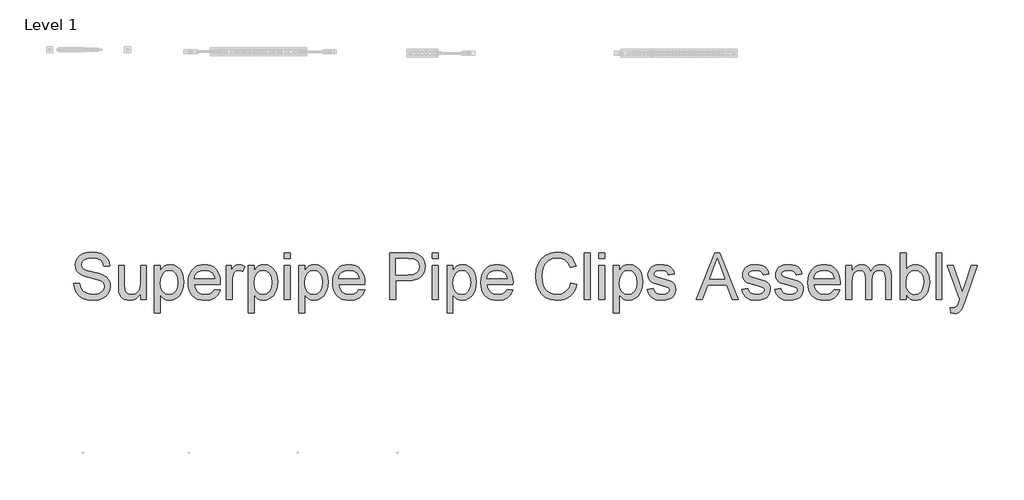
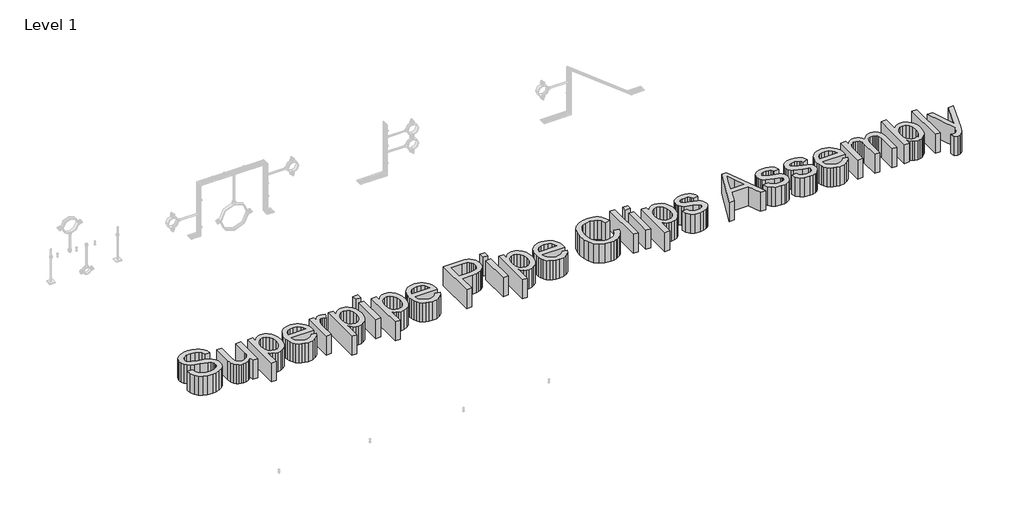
# One storey, part 27 of 32: 1 proxy.
"""IFC4 building model written with IfcOpenShell, lengths in millimetres."""

import ifcopenshell
import ifcopenshell.guid

model = None  # the IFC model being written
_history = None  # IfcOwnerHistory: only IFC2X3 demands one
_inside = {}  # id of a spatial element -> (the spatial element, [elements in it])
_under = {}  # id of a project, library or spatial element -> (it, [spatial elements below it])
_declared = {}  # id of a project -> (the project, [libraries it declares])
_typed = {}  # id of a type object -> (the type object, [elements of that type])
_made_of = {}  # id of a material, layer set ... -> (it, [elements and type objects made of it])


def new_model(schema):
    """Start an empty IFC model of exactly this schema.

    Asked for "IFC4X3", IfcOpenShell would pick the latest addendum, in which some entities
    have other attributes; the version numbers below select the first issue.
    IFC2X3 requires an IfcOwnerHistory on every rooted entity: one is made here for all.
    """
    global model, _history
    if schema == "IFC4X3":
        model = ifcopenshell.file(schema_version=(4, 3, 0, 0))
    else:
        model = ifcopenshell.file(schema=schema)
    _inside.clear()
    _under.clear()
    _declared.clear()
    _typed.clear()
    _made_of.clear()
    _history = None
    if model.schema == "IFC2X3":
        org = make("IfcOrganization", Name="unknown")
        user = make(
            "IfcPersonAndOrganization",
            ThePerson=make("IfcPerson", FamilyName="unknown"),
            TheOrganization=org,
        )
        app = make(
            "IfcApplication",
            ApplicationDeveloper=org,
            Version="unknown",
            ApplicationFullName="unknown",
            ApplicationIdentifier="unknown",
        )
        _history = make(
            "IfcOwnerHistory",
            OwningUser=user,
            OwningApplication=app,
            ChangeAction="ADDED",
            CreationDate=0,
        )
    return model


def make(cls, **values):
    """One entity of the class cls with the attributes given. An attribute that is None is left unset."""
    return model.create_entity(
        cls, **{name: value for name, value in values.items() if value is not None}
    )


def rooted(cls, **values):
    """An entity with a GlobalId (a new one), such as an element, a storey or a relation."""
    return make(cls, GlobalId=ifcopenshell.guid.new(), OwnerHistory=_history, **values)


def si_unit(unit_type, name, prefix=None):
    """IfcSIUnit, for example si_unit("LENGTHUNIT", "METRE", prefix="MILLI")."""
    return make("IfcSIUnit", UnitType=unit_type, Prefix=prefix, Name=name)


def assignment(units):
    """IfcUnitAssignment: the units of a project."""
    return None if units is None else make("IfcUnitAssignment", Units=units)


def point(xyz):
    """IfcCartesianPoint."""
    return None if xyz is None else make("IfcCartesianPoint", Coordinates=xyz)


def direction(xyz):
    """IfcDirection."""
    return None if xyz is None else make("IfcDirection", DirectionRatios=xyz)


def frame(location, z_axis=None, x_axis=None):
    """IfcAxis2Placement3D, a coordinate frame: its origin and axes. An axis left out is left unset."""
    return make(
        "IfcAxis2Placement3D",
        Location=point(location),
        Axis=direction(z_axis),
        RefDirection=direction(x_axis),
    )


def origin():
    """The frame at (0, 0, 0) with its axes left unset."""
    return frame((0.0, 0.0, 0.0))


def origin_with_axes():
    """The frame at (0, 0, 0) with the z axis (0, 0, 1) and the x axis (1, 0, 0) written out."""
    return frame((0.0, 0.0, 0.0), z_axis=(0.0, 0.0, 1.0), x_axis=(1.0, 0.0, 0.0))


def place(relative_to, where):
    """IfcLocalPlacement: puts the frame where relative to a parent placement (None: the world)."""
    return make(
        "IfcLocalPlacement", PlacementRelTo=relative_to, RelativePlacement=where
    )


def context(
    kind, dimensions, precision=None, world=None, true_north=None, identifier=None
):
    """IfcGeometricRepresentationContext, for example the 3D "Model" context."""
    return make(
        "IfcGeometricRepresentationContext",
        ContextIdentifier=identifier,
        ContextType=kind,
        CoordinateSpaceDimension=dimensions,
        Precision=precision,
        WorldCoordinateSystem=world,
        TrueNorth=true_north,
    )


def project(units=None, contexts=None):
    """IfcProject with its units and contexts."""
    return rooted(
        "IfcProject",
        Name="project",
        RepresentationContexts=contexts,
        UnitsInContext=assignment(units),
    )


def spatial(cls, under=None, at=None, **own):
    """A site, building, storey or space (cls), placed at a placement, below another one or the project."""
    s = rooted(cls, ObjectPlacement=at, **own)
    if under is not None:
        _under.setdefault(under.id(), (under, []))[1].append(s)
    return s


def polyline(points):
    """IfcPolyline through the points."""
    return make("IfcPolyline", Points=[point(p) for p in points])


def outline(outer, holes=None, kind="AREA"):
    """IfcArbitraryClosedProfileDef: a profile drawn as a closed curve; with holes, ...WithVoids."""
    if holes is None:
        return make("IfcArbitraryClosedProfileDef", ProfileType=kind, OuterCurve=outer)
    return make(
        "IfcArbitraryProfileDefWithVoids",
        ProfileType=kind,
        OuterCurve=outer,
        InnerCurves=holes,
    )


def extrude(swept, where, along, depth):
    """IfcExtrudedAreaSolid: the profile swept, set in the frame where, extruded along a direction by depth."""
    return make(
        "IfcExtrudedAreaSolid",
        SweptArea=swept,
        Position=where,
        ExtrudedDirection=direction(along),
        Depth=depth,
    )


def shape(context_of_items, identifier, shape_type, items):
    """IfcShapeRepresentation: the items that make up one representation, for example the "Body"."""
    return make(
        "IfcShapeRepresentation",
        ContextOfItems=context_of_items,
        RepresentationIdentifier=identifier,
        RepresentationType=shape_type,
        Items=items,
    )


def made_of(thing, what):
    """Note that an element or type object is made of a material, layer set ...; save() writes the relation."""
    if what is not None:
        _made_of.setdefault(what.id(), (what, []))[1].append(thing)
    return thing


def element(
    cls,
    number,
    at=None,
    inside=None,
    cuts=None,
    type_object=None,
    material=None,
    context=None,
    identifier="Body",
    shape_type=None,
    held_by="IfcProductDefinitionShape",
    body=None,
    shapes=None,
    **own,
):
    """One element of the class cls, such as IfcWall. Its Tag is "e" and its number.

    at: its placement. inside: the storey or other place that contains it. cuts: it is an
    opening in that element (IfcRelVoidsElement). A single representation is given by context,
    identifier, shape_type and body (its items); several are given by shapes. held_by: the class
    of the entity that holds the representations. save() writes the other relations.
    """
    e = rooted(cls, Tag="e%d" % number, ObjectPlacement=at, **own)
    if body is not None:
        shapes = [shape(context, identifier, shape_type, body)]
    if shapes is not None:
        e.Representation = make(held_by, Representations=shapes)
    if inside is not None:
        _inside.setdefault(inside.id(), (inside, []))[1].append(e)
    if cuts is not None:
        rooted(
            "IfcRelVoidsElement", RelatingBuildingElement=cuts, RelatedOpeningElement=e
        )
    if type_object is not None:
        _typed.setdefault(type_object.id(), (type_object, []))[1].append(e)
    return made_of(e, material)


def aggregate(whole, parts):
    """IfcRelAggregates: a whole, such as a stair, and the parts it consists of."""
    return rooted("IfcRelAggregates", RelatingObject=whole, RelatedObjects=parts)


def save(model, path):
    """Write the relations noted so far, then the file.

    IfcRelAggregates (storeys below a building ...), IfcRelContainedInSpatialStructure (elements
    in a storey), IfcRelDefinesByType, IfcRelAssociatesMaterial and IfcRelDeclares: one each for
    every whole, place, type object, material and project.
    """
    for whole, parts in _under.values():
        aggregate(whole, parts)
    for where, things in _inside.values():
        rooted(
            "IfcRelContainedInSpatialStructure",
            RelatedElements=things,
            RelatingStructure=where,
        )
    for kind, things in _typed.values():
        rooted("IfcRelDefinesByType", RelatedObjects=things, RelatingType=kind)
    for what, things in _made_of.values():
        rooted("IfcRelAssociatesMaterial", RelatedObjects=things, RelatingMaterial=what)
    for by, libraries in _declared.values():
        rooted("IfcRelDeclares", RelatingContext=by, RelatedDefinitions=libraries)
    model.write(path)


model = new_model("IFC4")

# Units and contexts
model_context = context("Model", 3, world=origin())
ifc_project = project(units=[si_unit("LENGTHUNIT", "METRE", prefix="MILLI")], contexts=[model_context])

# Site, building, storey
site = spatial("IfcSite", under=ifc_project)
building = spatial("IfcBuilding", under=site)
storey = spatial("IfcBuildingStorey", under=building, Name="Level 1", Elevation=0.0)

# Proxy
placement = place(None, origin())
element("IfcBuildingElementProxy", 1, Name="300mm Arial 2", ObjectType="300mm Arial 2", at=placement, inside=storey, context=model_context, shape_type="SweptSolid", body=[
    extrude(outline(polyline([(-22411.9190005, 19309.0330289), (-22374.2478842, 19309.0330289), (-22369.9252708, 19288.1281345), (-22362.1077784, 19271.3251244), (-22349.9124903, 19257.989402), (-22332.4564896, 19247.4863711), (-22311.1193339, 19240.6713571), (-22287.2805806, 19238.3996858), (-22266.2929128, 19240.1195341), (-22247.9172071, 19245.2790791), (-22233.0271833, 19253.4460594), (-22222.4965612, 19264.1882137), (-22216.2333703, 19276.5214575), (-22214.1456399, 19289.4617067), (-22215.7091384, 19302.0708621), (-22220.3996339, 19312.9693662), (-22229.9277775, 19322.2675836), (-22246.0042207, 19330.075879), (-22300.8554262, 19344.460065), (-22336.8618765, 19353.9790116), (-22359.9004864, 19363.0381058), (-22378.6532711, 19375.7116405), (-22391.9430082, 19391.0707138), (-22399.8616682, 19408.7842319), (-22402.5012215, 19428.5211009), (-22399.2362688, 19450.5848236), (-22389.4414106, 19471.1586241), (-22373.3741645, 19488.5962307), (-22351.2920477, 19501.2513714), (-22324.78615, 19508.9493021), (-22295.4475609, 19511.515279), (-22263.6625565, 19508.8297405), (-22235.8506777, 19500.7731248), (-22213.0052058, 19487.5109788), (-22196.1194222, 19469.2088496), (-22185.4324502, 19447.0071712), (-22181.1834132, 19422.0463778), (-22218.8545295, 19422.0463778), (-22225.770711, 19444.5239677), (-22240.1916852, 19460.7475637), (-22262.7244574, 19470.570013), (-22293.9760329, 19473.8441627), (-22325.9633724, 19470.6068012), (-22347.9075334, 19460.8947165), (-22360.5994622, 19446.602501), (-22364.8301052, 19429.6247469), (-22361.8318669, 19415.1485904), (-22352.8371521, 19403.5051252), (-22331.5735728, 19393.0940648), (-22291.3272825, 19382.4622751), (-22249.7934053, 19372.3639143), (-22224.667065, 19363.5531406), (-22203.1919535, 19349.8863244), (-22188.2099593, 19333.018935), (-22179.4083825, 19313.1349131), (-22176.4745236, 19290.4181999), (-22179.8498409, 19267.195649), (-22189.9757929, 19245.3526555), (-22206.4385121, 19226.5538856), (-22228.8241315, 19212.4640051), (-22255.7438965, 19203.6624284), (-22285.8090526, 19200.7285695), (-22322.7168138, 19203.8923547), (-22353.0946695, 19213.3837101), (-22377.2921077, 19229.2394241), (-22395.6586164, 19251.4962848), (-22407.4492343, 19278.6091879), (-22411.9190005, 19309.0330289)])), origin_with_axes(), (0.0, 0.0, 1.0), 150.0),
    extrude(outline(polyline([(-21983.4100526, 19205.437459), (-21983.4100526, 19243.4764573), (-21997.0400805, 19224.7742564), (-22012.9141886, 19211.4155415), (-22031.0323768, 19203.4003125), (-22051.3946453, 19200.7285695), (-22069.7427598, 19202.6047677), (-22086.8216814, 19208.2333622), (-22101.1506851, 19216.6946481), (-22111.2490459, 19227.0689203), (-22122.4694467, 19254.8072228), (-22124.6767387, 19289.8295887), (-22124.6767387, 19426.7552673), (-22087.0056224, 19426.7552673), (-22087.0056224, 19307.5615009), (-22084.724754, 19269.1546206), (-22079.2341153, 19256.3431301), (-22069.8255332, 19246.6034543), (-22057.1244073, 19240.4506279), (-22041.756137, 19238.3996858), (-22025.5049499, 19240.4966132), (-22010.3022264, 19246.7873953), (-21997.7666474, 19256.692618), (-21989.5168937, 19269.6328672), (-21984.9367628, 19287.3555823), (-21983.4100526, 19311.6082028), (-21983.4100526, 19426.7552673), (-21945.7389363, 19426.7552673), (-21945.7389363, 19205.437459), (-21983.4100526, 19205.437459)])), origin_with_axes(), (0.0, 0.0, 1.0), 150.0),
    extrude(outline(polyline([(-21893.9411513, 19120.6774473), (-21893.9411513, 19426.7552673), (-21856.270035, 19426.7552673), (-21856.270035, 19389.819915), (-21843.9827764, 19408.0392708), (-21830.2239898, 19421.0530964), (-21814.1843348, 19428.8613918), (-21795.054471, 19431.4641569), (-21769.5786429, 19427.8221251), (-21747.3033881, 19416.8960299), (-21729.1668057, 19399.3480587), (-21716.1069949, 19375.8403992), (-21708.2159261, 19348.0837027), (-21705.5855698, 19317.7886204), (-21708.5562169, 19285.5713546), (-21717.4681582, 19256.7569974), (-21732.0362853, 19232.8078795), (-21751.9754894, 19215.1863319), (-21775.1980403, 19204.3430101), (-21799.6162078, 19200.7285695), (-21816.9342527, 19203.1473936), (-21832.3944935, 19210.403866), (-21845.6290483, 19221.3575524), (-21856.270035, 19234.8680186), (-21856.270035, 19120.6774473), (-21893.9411513, 19120.6774473)]), holes=[polyline([(-21856.270035, 19314.3305296), (-21852.1957419, 19280.5589624), (-21839.9728626, 19256.9409384), (-21821.9374478, 19243.0349989), (-21800.4255482, 19238.3996858), (-21778.5641606, 19243.2005458), (-21760.0688933, 19257.6031259), (-21747.4597379, 19282.0856727), (-21743.2566861, 19317.1264328), (-21747.3585704, 19350.7140589), (-21759.6642231, 19374.6631768), (-21777.6720468, 19389.0105746), (-21798.8804438, 19393.7930406), (-21820.1716143, 19388.707072), (-21838.8692167, 19373.4491662), (-21851.9198304, 19348.4975699), (-21856.270035, 19314.3305296)])]), origin_with_axes(), (0.0, 0.0, 1.0), 150.0),
    extrude(outline(polyline([(-21508.2536676, 19271.3619126), (-21471.3183153, 19266.653023), (-21484.6264465, 19238.8227501), (-21505.8624346, 19218.0190233), (-21534.5480332, 19205.0511829), (-21570.2049956, 19200.7285695), (-21593.5792978, 19202.5932714), (-21614.4060173, 19208.1873769), (-21632.6851539, 19217.5108863), (-21648.4167078, 19230.5637993), (-21661.0672499, 19246.9828326), (-21670.1033514, 19266.4047027), (-21675.5250123, 19288.8294095), (-21677.3322326, 19314.2569532), (-21675.5066182, 19340.5467203), (-21670.029775, 19363.7186875), (-21660.901703, 19383.7728547), (-21648.1224022, 19400.7092221), (-21632.4322351, 19414.164506), (-21614.5715642, 19423.7754232), (-21594.5403896, 19429.5419734), (-21572.3387112, 19431.4641569), (-21550.8521034, 19429.546572), (-21531.4210362, 19423.7938173), (-21514.0455098, 19414.2058928), (-21498.7255239, 19400.7827985), (-21486.2198353, 19383.8832193), (-21477.2872006, 19363.8658403), (-21471.9276198, 19340.7306613), (-21470.1410929, 19314.4776824), (-21470.3618221, 19304.3241393), (-21639.6611163, 19304.3241393), (-21633.1404079, 19276.1259844), (-21617.9928668, 19255.395834), (-21596.1314792, 19242.6487228), (-21569.4692316, 19238.3996858), (-21549.4196629, 19240.3678545), (-21532.5338793, 19246.2723605), (-21518.8118809, 19256.4810859), (-21508.2536676, 19271.3619126)]), holes=[polyline([(-21639.6611163, 19341.9952556), (-21507.8122092, 19341.9952556), (-21512.9073748, 19361.8976716), (-21522.895371, 19376.1347048), (-21544.8579261, 19389.3784566), (-21572.4858639, 19393.7930406), (-21597.8789187, 19390.2705705), (-21618.8757835, 19379.7031601), (-21633.4715017, 19363.2312438), (-21639.6611163, 19341.9952556)])]), origin_with_axes(), (0.0, 0.0, 1.0), 150.0),
    extrude(outline(polyline([(-21432.4699766, 19205.437459), (-21432.4699766, 19426.7552673), (-21399.5077498, 19426.7552673), (-21399.5077498, 19394.0137698), (-21387.3308558, 19412.9964807), (-21376.1104549, 19424.1800934), (-21364.8532659, 19429.643141), (-21352.5660072, 19431.4641569), (-21333.8040255, 19428.5578891), (-21314.7477381, 19419.8390858), (-21327.3293024, 19386.0675187), (-21340.5730542, 19391.8616601), (-21353.816806, 19393.7930406), (-21365.064798, 19391.9352365), (-21375.1171735, 19386.3618243), (-21383.2381686, 19377.4958682), (-21388.6920192, 19365.7604325), (-21393.27215, 19344.7175824), (-21394.7988603, 19321.7617459), (-21394.7988603, 19205.437459), (-21432.4699766, 19205.437459)])), origin_with_axes(), (0.0, 0.0, 1.0), 150.0),
    extrude(outline(polyline([(-21291.2032904, 19120.6774473), (-21291.2032904, 19426.7552673), (-21253.5321741, 19426.7552673), (-21253.5321741, 19389.819915), (-21241.2449155, 19408.0392708), (-21227.4861289, 19421.0530964), (-21211.4464739, 19428.8613918), (-21192.3166101, 19431.4641569), (-21166.840782, 19427.8221251), (-21144.5655272, 19416.8960299), (-21126.4289448, 19399.3480587), (-21113.369134, 19375.8403992), (-21105.4780652, 19348.0837027), (-21102.8477089, 19317.7886204), (-21105.818356, 19285.5713546), (-21114.7302974, 19256.7569974), (-21129.2984244, 19232.8078795), (-21149.2376285, 19215.1863319), (-21172.4601794, 19204.3430101), (-21196.8783469, 19200.7285695), (-21214.1963918, 19203.1473936), (-21229.6566326, 19210.403866), (-21242.8911874, 19221.3575524), (-21253.5321741, 19234.8680186), (-21253.5321741, 19120.6774473), (-21291.2032904, 19120.6774473)]), holes=[polyline([(-21253.5321741, 19314.3305296), (-21249.457881, 19280.5589624), (-21237.2350017, 19256.9409384), (-21219.1995869, 19243.0349989), (-21197.6876873, 19238.3996858), (-21175.8262997, 19243.2005458), (-21157.3310324, 19257.6031259), (-21144.721877, 19282.0856727), (-21140.5188252, 19317.1264328), (-21144.6207095, 19350.7140589), (-21156.9263622, 19374.6631768), (-21174.9341859, 19389.0105746), (-21196.1425829, 19393.7930406), (-21217.4337534, 19388.707072), (-21236.1313558, 19373.4491662), (-21249.1819695, 19348.4975699), (-21253.5321741, 19314.3305296)])]), origin_with_axes(), (0.0, 0.0, 1.0), 150.0),
    extrude(outline(polyline([(-21060.4677031, 19205.437459), (-21060.4677031, 19426.7552673), (-21022.7965868, 19426.7552673), (-21022.7965868, 19205.437459), (-21060.4677031, 19205.437459)])), origin_with_axes(), (0.0, 0.0, 1.0), 150.0),
    extrude(outline(polyline([(-21060.4677031, 19469.1352732), (-21060.4677031, 19506.8063895), (-21022.7965868, 19506.8063895), (-21022.7965868, 19469.1352732), (-21060.4677031, 19469.1352732)])), origin_with_axes(), (0.0, 0.0, 1.0), 150.0),
    extrude(outline(polyline([(-20966.2899123, 19120.6774473), (-20966.2899123, 19426.7552673), (-20928.618796, 19426.7552673), (-20928.618796, 19389.819915), (-20916.3315374, 19408.0392708), (-20902.5727507, 19421.0530964), (-20886.5330957, 19428.8613918), (-20867.403232, 19431.4641569), (-20841.9274038, 19427.8221251), (-20819.652149, 19416.8960299), (-20801.5155667, 19399.3480587), (-20788.4557558, 19375.8403992), (-20780.564687, 19348.0837027), (-20777.9343308, 19317.7886204), (-20780.9049779, 19285.5713546), (-20789.8169192, 19256.7569974), (-20804.3850462, 19232.8078795), (-20824.3242504, 19215.1863319), (-20847.5468013, 19204.3430101), (-20871.9649687, 19200.7285695), (-20889.2830137, 19203.1473936), (-20904.7432545, 19210.403866), (-20917.9778093, 19221.3575524), (-20928.618796, 19234.8680186), (-20928.618796, 19120.6774473), (-20966.2899123, 19120.6774473)]), holes=[polyline([(-20928.618796, 19314.3305296), (-20924.5445029, 19280.5589624), (-20912.3216236, 19256.9409384), (-20894.2862088, 19243.0349989), (-20872.7743091, 19238.3996858), (-20850.9129216, 19243.2005458), (-20832.4176543, 19257.6031259), (-20819.8084989, 19282.0856727), (-20815.6054471, 19317.1264328), (-20819.7073313, 19350.7140589), (-20832.0129841, 19374.6631768), (-20850.0208077, 19389.0105746), (-20871.2292047, 19393.7930406), (-20892.5203752, 19388.707072), (-20911.2179776, 19373.4491662), (-20924.2685914, 19348.4975699), (-20928.618796, 19314.3305296)])]), origin_with_axes(), (0.0, 0.0, 1.0), 150.0),
    extrude(outline(polyline([(-20580.6024286, 19271.3619126), (-20543.6670762, 19266.653023), (-20556.9752074, 19238.8227501), (-20578.2111956, 19218.0190233), (-20606.8967942, 19205.0511829), (-20642.5537565, 19200.7285695), (-20665.9280588, 19202.5932714), (-20686.7547783, 19208.1873769), (-20705.0339149, 19217.5108863), (-20720.7654687, 19230.5637993), (-20733.4160108, 19246.9828326), (-20742.4521123, 19266.4047027), (-20747.8737732, 19288.8294095), (-20749.6809935, 19314.2569532), (-20747.8553791, 19340.5467203), (-20742.3785359, 19363.7186875), (-20733.2504639, 19383.7728547), (-20720.4711631, 19400.7092221), (-20704.780996, 19414.164506), (-20686.9203252, 19423.7754232), (-20666.8891505, 19429.5419734), (-20644.6874721, 19431.4641569), (-20623.2008643, 19429.546572), (-20603.7697972, 19423.7938173), (-20586.3942707, 19414.2058928), (-20571.0742849, 19400.7827985), (-20558.5685963, 19383.8832193), (-20549.6359616, 19363.8658403), (-20544.2763808, 19340.7306613), (-20542.4898539, 19314.4776824), (-20542.7105831, 19304.3241393), (-20712.0098772, 19304.3241393), (-20705.4891689, 19276.1259844), (-20690.3416277, 19255.395834), (-20668.4802402, 19242.6487228), (-20641.8179926, 19238.3996858), (-20621.7684238, 19240.3678545), (-20604.8826402, 19246.2723605), (-20591.1606418, 19256.4810859), (-20580.6024286, 19271.3619126)]), holes=[polyline([(-20712.0098772, 19341.9952556), (-20580.1609702, 19341.9952556), (-20585.2561358, 19361.8976716), (-20595.244132, 19376.1347048), (-20617.2066871, 19389.3784566), (-20644.8346249, 19393.7930406), (-20670.2276796, 19390.2705705), (-20691.2245445, 19379.7031601), (-20705.8202627, 19363.2312438), (-20712.0098772, 19341.9952556)])]), origin_with_axes(), (0.0, 0.0, 1.0), 150.0),
    extrude(outline(polyline([(-20382.3876096, 19205.437459), (-20382.3876096, 19506.8063895), (-20270.6986358, 19506.8063895), (-20225.6698796, 19503.9369099), (-20205.5927197, 19498.5750298), (-20189.0656211, 19489.8470295), (-20175.7574899, 19477.3574358), (-20165.3372324, 19460.7107755), (-20158.6049919, 19441.075074), (-20156.3609117, 19419.6183566), (-20157.8761257, 19401.1184908), (-20162.4217676, 19384.09935), (-20169.9978374, 19368.5609342), (-20180.6043352, 19354.5032435), (-20195.1655644, 19342.8505813), (-20214.6058286, 19334.5272511), (-20238.9251277, 19329.5332531), (-20268.1234619, 19327.868587), (-20344.7164932, 19327.868587), (-20344.7164932, 19205.437459), (-20382.3876096, 19205.437459)]), holes=[polyline([(-20344.7164932, 19365.5397033), (-20265.9161699, 19365.5397033), (-20232.5124847, 19368.9977941), (-20210.439565, 19379.3720663), (-20198.1339123, 19396.0187266), (-20194.032028, 19418.2939814), (-20196.4508521, 19435.2165532), (-20203.7073245, 19449.4903746), (-20214.9001342, 19460.2325289), (-20229.1279704, 19466.5600992), (-20266.7990867, 19469.1352732), (-20344.7164932, 19469.1352732), (-20344.7164932, 19365.5397033)])]), origin_with_axes(), (0.0, 0.0, 1.0), 150.0),
    extrude(outline(polyline([(-20109.2720163, 19205.437459), (-20109.2720163, 19426.7552673), (-20071.6009, 19426.7552673), (-20071.6009, 19205.437459), (-20109.2720163, 19205.437459)])), origin_with_axes(), (0.0, 0.0, 1.0), 150.0),
    extrude(outline(polyline([(-20109.2720163, 19469.1352732), (-20109.2720163, 19506.8063895), (-20071.6009, 19506.8063895), (-20071.6009, 19469.1352732), (-20109.2720163, 19469.1352732)])), origin_with_axes(), (0.0, 0.0, 1.0), 150.0),
    extrude(outline(polyline([(-20015.0942256, 19120.6774473), (-20015.0942256, 19426.7552673), (-19977.4231093, 19426.7552673), (-19977.4231093, 19389.819915), (-19965.1358506, 19408.0392708), (-19951.377064, 19421.0530964), (-19935.337409, 19428.8613918), (-19916.2075453, 19431.4641569), (-19890.7317171, 19427.8221251), (-19868.4564623, 19416.8960299), (-19850.3198799, 19399.3480587), (-19837.2600691, 19375.8403992), (-19829.3690003, 19348.0837027), (-19826.738644, 19317.7886204), (-19829.7092911, 19285.5713546), (-19838.6212325, 19256.7569974), (-19853.1893595, 19232.8078795), (-19873.1285636, 19215.1863319), (-19896.3511146, 19204.3430101), (-19920.769282, 19200.7285695), (-19938.0873269, 19203.1473936), (-19953.5475678, 19210.403866), (-19966.7821226, 19221.3575524), (-19977.4231093, 19234.8680186), (-19977.4231093, 19120.6774473), (-20015.0942256, 19120.6774473)]), holes=[polyline([(-19977.4231093, 19314.3305296), (-19973.3488162, 19280.5589624), (-19961.1259369, 19256.9409384), (-19943.0905221, 19243.0349989), (-19921.5786224, 19238.3996858), (-19899.7172348, 19243.2005458), (-19881.2219675, 19257.6031259), (-19868.6128121, 19282.0856727), (-19864.4097603, 19317.1264328), (-19868.5116446, 19350.7140589), (-19880.8172973, 19374.6631768), (-19898.825121, 19389.0105746), (-19920.033518, 19393.7930406), (-19941.3246885, 19388.707072), (-19960.0222909, 19373.4491662), (-19973.0729047, 19348.4975699), (-19977.4231093, 19314.3305296)])]), origin_with_axes(), (0.0, 0.0, 1.0), 150.0),
    extrude(outline(polyline([(-19629.4067418, 19271.3619126), (-19592.4713895, 19266.653023), (-19605.7795207, 19238.8227501), (-19627.0155089, 19218.0190233), (-19655.7011074, 19205.0511829), (-19691.3580698, 19200.7285695), (-19714.7323721, 19202.5932714), (-19735.5590915, 19208.1873769), (-19753.8382282, 19217.5108863), (-19769.569782, 19230.5637993), (-19782.2203241, 19246.9828326), (-19791.2564256, 19266.4047027), (-19796.6780865, 19288.8294095), (-19798.4853068, 19314.2569532), (-19796.6596924, 19340.5467203), (-19791.1828492, 19363.7186875), (-19782.0547772, 19383.7728547), (-19769.2754764, 19400.7092221), (-19753.5853093, 19414.164506), (-19735.7246384, 19423.7754232), (-19715.6934638, 19429.5419734), (-19693.4917854, 19431.4641569), (-19672.0051776, 19429.546572), (-19652.5741105, 19423.7938173), (-19635.198584, 19414.2058928), (-19619.8785981, 19400.7827985), (-19607.3729096, 19383.8832193), (-19598.4402749, 19363.8658403), (-19593.0806941, 19340.7306613), (-19591.2941671, 19314.4776824), (-19591.5148963, 19304.3241393), (-19760.8141905, 19304.3241393), (-19754.2934821, 19276.1259844), (-19739.145941, 19255.395834), (-19717.2845534, 19242.6487228), (-19690.6223058, 19238.3996858), (-19670.5727371, 19240.3678545), (-19653.6869535, 19246.2723605), (-19639.9649551, 19256.4810859), (-19629.4067418, 19271.3619126)]), holes=[polyline([(-19760.8141905, 19341.9952556), (-19628.9652834, 19341.9952556), (-19634.0604491, 19361.8976716), (-19644.0484452, 19376.1347048), (-19666.0110003, 19389.3784566), (-19693.6389382, 19393.7930406), (-19719.0319929, 19390.2705705), (-19740.0288578, 19379.7031601), (-19754.6245759, 19363.2312438), (-19760.8141905, 19341.9952556)])]), origin_with_axes(), (0.0, 0.0, 1.0), 150.0),
    extrude(outline(polyline([(-19219.2918936, 19312.564696), (-19181.6207773, 19302.8526114), (-19189.0749862, 19279.425426), (-19199.0032016, 19258.9550923), (-19211.4054233, 19241.44161), (-19226.2816515, 19226.8849793), (-19243.2961938, 19215.44155), (-19262.1133578, 19207.267672), (-19282.7331437, 19202.3633451), (-19305.1555513, 19200.7285695), (-19348.8507353, 19205.6765823), (-19383.5512044, 19220.5206208), (-19410.1490727, 19244.7456502), (-19429.5364538, 19277.8366357), (-19441.373057, 19316.7401567), (-19445.3185914, 19358.4027926), (-19440.8580222, 19402.3462969), (-19427.4763147, 19440.2933248), (-19405.8724445, 19471.0390625), (-19376.7453875, 19493.3786967), (-19342.2012682, 19506.9811334), (-19304.3462109, 19511.515279), (-19263.0422599, 19505.6475612), (-19245.0735237, 19498.3129139), (-19228.8936137, 19488.0444077), (-19214.7692443, 19475.1133556), (-19202.9671301, 19459.7910705), (-19186.3296668, 19421.9728014), (-19224.0007831, 19412.9964807), (-19237.060594, 19440.4680687), (-19254.9028707, 19459.3128239), (-19277.7483426, 19470.211328), (-19305.8177389, 19473.8441627), (-19338.1729603, 19469.8158549), (-19364.7524345, 19457.7309313), (-19384.9215649, 19438.858585), (-19398.0457551, 19414.4680087), (-19405.2470451, 19386.8952532), (-19407.6474751, 19358.476369), (-19404.8055867, 19323.6747323), (-19396.2799215, 19293.5819851), (-19381.7485827, 19269.3477586), (-19360.8896735, 19252.1216842), (-19335.8828949, 19241.8301854), (-19308.9079476, 19238.3996858), (-19277.4632341, 19243.0717871), (-19251.260839, 19257.0880912), (-19231.4779847, 19280.301445), (-19219.2918936, 19312.564696)])), origin_with_axes(), (0.0, 0.0, 1.0), 150.0),
    extrude(outline(polyline([(-19134.5318819, 19205.437459), (-19134.5318819, 19506.8063895), (-19096.8607656, 19506.8063895), (-19096.8607656, 19205.437459), (-19134.5318819, 19205.437459)])), origin_with_axes(), (0.0, 0.0, 1.0), 150.0),
    extrude(outline(polyline([(-19040.3540911, 19469.1352732), (-19040.3540911, 19506.8063895), (-19002.6829748, 19506.8063895), (-19002.6829748, 19469.1352732), (-19040.3540911, 19469.1352732)])), origin_with_axes(), (0.0, 0.0, 1.0), 150.0),
    extrude(outline(polyline([(-19040.3540911, 19205.437459), (-19040.3540911, 19426.7552673), (-19002.6829748, 19426.7552673), (-19002.6829748, 19205.437459), (-19040.3540911, 19205.437459)])), origin_with_axes(), (0.0, 0.0, 1.0), 150.0),
    extrude(outline(polyline([(-18946.1763004, 19120.6774473), (-18946.1763004, 19426.7552673), (-18908.5051841, 19426.7552673), (-18908.5051841, 19389.819915), (-18896.2179254, 19408.0392708), (-18882.4591388, 19421.0530964), (-18866.4194838, 19428.8613918), (-18847.2896201, 19431.4641569), (-18821.8137919, 19427.8221251), (-18799.5385371, 19416.8960299), (-18781.4019547, 19399.3480587), (-18768.3421439, 19375.8403992), (-18760.4510751, 19348.0837027), (-18757.8207189, 19317.7886204), (-18760.791366, 19285.5713546), (-18769.7033073, 19256.7569974), (-18784.2714343, 19232.8078795), (-18804.2106384, 19215.1863319), (-18827.4331894, 19204.3430101), (-18851.8513568, 19200.7285695), (-18869.1694017, 19203.1473936), (-18884.6296426, 19210.403866), (-18897.8641974, 19221.3575524), (-18908.5051841, 19234.8680186), (-18908.5051841, 19120.6774473), (-18946.1763004, 19120.6774473)]), holes=[polyline([(-18908.5051841, 19314.3305296), (-18904.430891, 19280.5589624), (-18892.2080117, 19256.9409384), (-18874.1725969, 19243.0349989), (-18852.6606972, 19238.3996858), (-18830.7993096, 19243.2005458), (-18812.3040423, 19257.6031259), (-18799.694887, 19282.0856727), (-18795.4918352, 19317.1264328), (-18799.5937194, 19350.7140589), (-18811.8993721, 19374.6631768), (-18829.9071958, 19389.0105746), (-18851.1155928, 19393.7930406), (-18872.4067633, 19388.707072), (-18891.1043657, 19373.4491662), (-18904.1549795, 19348.4975699), (-18908.5051841, 19314.3305296)])]), origin_with_axes(), (0.0, 0.0, 1.0), 150.0),
    extrude(outline(polyline([(-18729.5673816, 19271.3619126), (-18691.8962653, 19276.0708021), (-18685.9549711, 19259.9575707), (-18674.4586587, 19248.1117705), (-18657.3337519, 19240.827707), (-18634.5066741, 19238.3996858), (-18611.9555078, 19240.6253719), (-18596.0997938, 19247.3024301), (-18586.7188029, 19256.9777266), (-18583.5918059, 19268.1981274), (-18586.737197, 19277.7998475), (-18596.1733702, 19285.1206992), (-18634.9481325, 19295.8628534), (-18691.6755361, 19314.2937414), (-18706.032131, 19323.5551706), (-18716.4339944, 19335.8148381), (-18722.7523677, 19350.2909946), (-18724.8584921, 19366.2018909), (-18723.1662349, 19380.7976091), (-18718.0894634, 19394.2712872), (-18710.08803, 19406.0894962), (-18699.6217872, 19415.7188075), (-18675.6726693, 19426.8656319), (-18643.2622656, 19431.4641569), (-18618.7429306, 19429.6155498), (-18597.424169, 19424.0697288), (-18580.280868, 19415.3693196), (-18568.2879149, 19404.0569482), (-18560.3416638, 19389.2956832), (-18555.3384687, 19370.2485929), (-18593.009585, 19365.5397033), (-18597.7644598, 19377.3947006), (-18607.1730418, 19386.3250361), (-18621.3273016, 19391.9260394), (-18640.3192096, 19393.7930406), (-18661.9506709, 19392.0088129), (-18676.3716451, 19386.6561299), (-18684.4834431, 19378.930608), (-18687.1873758, 19370.0278637), (-18682.6992154, 19359.0649802), (-18668.6461232, 19350.7508471), (-18636.1989312, 19342.7310196), (-18580.9062674, 19324.9991075), (-18566.3013522, 19316.5194275), (-18555.2281041, 19304.9127505), (-18548.2475432, 19290.1422884), (-18545.9206896, 19272.171253), (-18548.6522134, 19253.5932122), (-18556.8467849, 19236.1188174), (-18570.1917043, 19221.1184291), (-18588.3742719, 19209.9624076), (-18610.336827, 19203.037029), (-18635.0217089, 19200.7285695), (-18673.0055249, 19205.1799416), (-18700.7254332, 19218.5340581), (-18719.2298976, 19240.643766), (-18729.5673816, 19271.3619126)])), origin_with_axes(), (0.0, 0.0, 1.0), 150.0),
    extrude(outline(polyline([(-18416.2054981, 19205.437459), (-18295.9080857, 19506.8063895), (-18263.8287757, 19506.8063895), (-18143.5313633, 19205.437459), (-18183.3361952, 19205.437459), (-18217.8435263, 19299.6152498), (-18341.9669115, 19299.6152498), (-18376.4006663, 19205.437459), (-18416.2054981, 19205.437459)]), holes=[polyline([(-18328.1345485, 19337.2863661), (-18231.602313, 19337.2863661), (-18258.7520042, 19411.3777999), (-18279.8684307, 19469.1352732), (-18298.6304125, 19417.852523), (-18328.1345485, 19337.2863661)])]), origin_with_axes(), (0.0, 0.0, 1.0), 150.0),
    extrude(outline(polyline([(-18122.1206312, 19271.3619126), (-18084.4495149, 19276.0708021), (-18078.5082207, 19259.9575707), (-18067.0119083, 19248.1117705), (-18049.8870014, 19240.827707), (-18027.0599236, 19238.3996858), (-18004.5087573, 19240.6253719), (-17988.6530433, 19247.3024301), (-17979.2720525, 19256.9777266), (-17976.1450555, 19268.1981274), (-17979.2904466, 19277.7998475), (-17988.7266197, 19285.1206992), (-18027.501382, 19295.8628534), (-18084.2287857, 19314.2937414), (-18098.5853805, 19323.5551706), (-18108.987244, 19335.8148381), (-18115.3056172, 19350.2909946), (-18117.4117416, 19366.2018909), (-18115.7194845, 19380.7976091), (-18110.6427129, 19394.2712872), (-18102.6412795, 19406.0894962), (-18092.1750368, 19415.7188075), (-18068.2259189, 19426.8656319), (-18035.8155151, 19431.4641569), (-18011.2961801, 19429.6155498), (-17989.9774185, 19424.0697288), (-17972.8341175, 19415.3693196), (-17960.8411645, 19404.0569482), (-17952.8949134, 19389.2956832), (-17947.8917183, 19370.2485929), (-17985.5628346, 19365.5397033), (-17990.3177094, 19377.3947006), (-17999.7262914, 19386.3250361), (-18013.8805512, 19391.9260394), (-18032.8724592, 19393.7930406), (-18054.5039205, 19392.0088129), (-18068.9248947, 19386.6561299), (-18077.0366927, 19378.930608), (-18079.7406253, 19370.0278637), (-18075.252465, 19359.0649802), (-18061.1993728, 19350.7508471), (-18028.7521808, 19342.7310196), (-17973.4595169, 19324.9991075), (-17958.8546017, 19316.5194275), (-17947.7813537, 19304.9127505), (-17940.8007928, 19290.1422884), (-17938.4739392, 19272.171253), (-17941.205463, 19253.5932122), (-17949.4000345, 19236.1188174), (-17962.7449538, 19221.1184291), (-17980.9275214, 19209.9624076), (-18002.8900765, 19203.037029), (-18027.5749584, 19200.7285695), (-18065.5587744, 19205.1799416), (-18093.2786828, 19218.5340581), (-18111.7831471, 19240.643766), (-18122.1206312, 19271.3619126)])), origin_with_axes(), (0.0, 0.0, 1.0), 150.0),
    extrude(outline(polyline([(-17910.220602, 19271.3619126), (-17872.5494857, 19276.0708021), (-17866.6081914, 19259.9575707), (-17855.1118791, 19248.1117705), (-17837.9869722, 19240.827707), (-17815.1598944, 19238.3996858), (-17792.6087281, 19240.6253719), (-17776.7530141, 19247.3024301), (-17767.3720232, 19256.9777266), (-17764.2450263, 19268.1981274), (-17767.3904173, 19277.7998475), (-17776.8265905, 19285.1206992), (-17815.6013528, 19295.8628534), (-17872.3287565, 19314.2937414), (-17886.6853513, 19323.5551706), (-17897.0872147, 19335.8148381), (-17903.405588, 19350.2909946), (-17905.5117124, 19366.2018909), (-17903.8194552, 19380.7976091), (-17898.7426837, 19394.2712872), (-17890.7412503, 19406.0894962), (-17880.2750076, 19415.7188075), (-17856.3258897, 19426.8656319), (-17823.9154859, 19431.4641569), (-17799.3961509, 19429.6155498), (-17778.0773893, 19424.0697288), (-17760.9340883, 19415.3693196), (-17748.9411353, 19404.0569482), (-17740.9948842, 19389.2956832), (-17735.991689, 19370.2485929), (-17773.6628054, 19365.5397033), (-17778.4176801, 19377.3947006), (-17787.8262622, 19386.3250361), (-17801.9805219, 19391.9260394), (-17820.9724299, 19393.7930406), (-17842.6038913, 19392.0088129), (-17857.0248655, 19386.6561299), (-17865.1366635, 19378.930608), (-17867.8405961, 19370.0278637), (-17863.3524358, 19359.0649802), (-17849.2993436, 19350.7508471), (-17816.8521516, 19342.7310196), (-17761.5594877, 19324.9991075), (-17746.9545725, 19316.5194275), (-17735.8813245, 19304.9127505), (-17728.9007636, 19290.1422884), (-17726.57391, 19272.171253), (-17729.3054338, 19253.5932122), (-17737.5000052, 19236.1188174), (-17750.8449246, 19221.1184291), (-17769.0274922, 19209.9624076), (-17790.9900473, 19203.037029), (-17815.6749292, 19200.7285695), (-17853.6587452, 19205.1799416), (-17881.3786535, 19218.5340581), (-17899.8831179, 19240.643766), (-17910.220602, 19271.3619126)])), origin_with_axes(), (0.0, 0.0, 1.0), 150.0),
    extrude(outline(polyline([(-17529.2420078, 19271.3619126), (-17492.3066554, 19266.653023), (-17505.6147866, 19238.8227501), (-17526.8507748, 19218.0190233), (-17555.5363734, 19205.0511829), (-17591.1933357, 19200.7285695), (-17614.567638, 19202.5932714), (-17635.3943575, 19208.1873769), (-17653.6734941, 19217.5108863), (-17669.4050479, 19230.5637993), (-17682.05559, 19246.9828326), (-17691.0916915, 19266.4047027), (-17696.5133524, 19288.8294095), (-17698.3205727, 19314.2569532), (-17696.4949583, 19340.5467203), (-17691.0181151, 19363.7186875), (-17681.8900431, 19383.7728547), (-17669.1107423, 19400.7092221), (-17653.4205752, 19414.164506), (-17635.5599044, 19423.7754232), (-17615.5287297, 19429.5419734), (-17593.3270513, 19431.4641569), (-17571.8404435, 19429.546572), (-17552.4093764, 19423.7938173), (-17535.0338499, 19414.2058928), (-17519.7138641, 19400.7827985), (-17507.2081755, 19383.8832193), (-17498.2755408, 19363.8658403), (-17492.91596, 19340.7306613), (-17491.1294331, 19314.4776824), (-17491.3501623, 19304.3241393), (-17660.6494564, 19304.3241393), (-17654.1287481, 19276.1259844), (-17638.9812069, 19255.395834), (-17617.1198194, 19242.6487228), (-17590.4575718, 19238.3996858), (-17570.408003, 19240.3678545), (-17553.5222194, 19246.2723605), (-17539.800221, 19256.4810859), (-17529.2420078, 19271.3619126)]), holes=[polyline([(-17660.6494564, 19341.9952556), (-17528.8005494, 19341.9952556), (-17533.895715, 19361.8976716), (-17543.8837112, 19376.1347048), (-17565.8462663, 19389.3784566), (-17593.4742041, 19393.7930406), (-17618.8672588, 19390.2705705), (-17639.8641237, 19379.7031601), (-17654.4598419, 19363.2312438), (-17660.6494564, 19341.9952556)])]), origin_with_axes(), (0.0, 0.0, 1.0), 150.0),
    extrude(outline(polyline([(-17453.4583168, 19205.437459), (-17453.4583168, 19426.7552673), (-17415.7872004, 19426.7552673), (-17415.7872004, 19390.3349498), (-17404.456435, 19407.0643835), (-17389.888308, 19420.1701796), (-17372.5794601, 19428.6406626), (-17353.0265321, 19431.4641569), (-17332.0756524, 19428.5854803), (-17315.2818394, 19419.9494504), (-17302.7370633, 19406.1262844), (-17294.5332948, 19387.6861994), (-17280.8020994, 19406.8390558), (-17265.1395234, 19420.5196675), (-17247.545567, 19428.7280345), (-17228.0202301, 19431.4641569), (-17199.7025135, 19426.9116172), (-17178.760831, 19413.2539981), (-17165.8205818, 19390.1234177), (-17161.5071654, 19357.1519938), (-17161.5071654, 19205.437459), (-17199.1782817, 19205.437459), (-17199.1782817, 19340.9651861), (-17202.6731606, 19372.4190966), (-17207.5843853, 19381.0919147), (-17215.3283013, 19387.9069286), (-17225.2887063, 19392.3215126), (-17236.849398, 19393.7930406), (-17257.2576517, 19390.0222501), (-17273.8951149, 19378.7098788), (-17284.9591659, 19359.0833743), (-17288.6471829, 19330.3701846), (-17288.6471829, 19205.437459), (-17326.3182992, 19205.437459), (-17326.3182992, 19345.1590408), (-17328.498, 19366.4594083), (-17335.0371025, 19381.6529347), (-17346.5426119, 19390.7580141), (-17363.6215335, 19393.7930406), (-17378.1344782, 19391.7696896), (-17391.5069888, 19385.6996367), (-17402.5434486, 19375.7300346), (-17410.0482413, 19362.0080362), (-17414.3524607, 19342.9701429), (-17415.7872004, 19317.0528564), (-17415.7872004, 19205.437459), (-17453.4583168, 19205.437459)])), origin_with_axes(), (0.0, 0.0, 1.0), 150.0),
    extrude(outline(polyline([(-17067.3293746, 19205.437459), (-17105.0004909, 19205.437459), (-17105.0004909, 19506.8063895), (-17067.3293746, 19506.8063895), (-17067.3293746, 19395.0438393), (-17054.9409484, 19410.9777283), (-17040.9522356, 19422.3590775), (-17025.363236, 19429.187887), (-17008.1739498, 19431.4641569), (-16988.7681745, 19429.4132147), (-16970.4292571, 19423.2603884), (-16954.2056611, 19413.3919539), (-16941.1458503, 19400.1941873), (-16930.9095338, 19383.7958473), (-16923.1564207, 19364.3256927), (-16918.2727872, 19342.5930639), (-16916.6449094, 19319.4073011), (-16918.3302688, 19292.653083), (-16923.386347, 19269.1178324), (-16931.8131439, 19248.8015492), (-16943.6106596, 19231.7042335), (-16957.7718172, 19218.1523805), (-16973.2895396, 19208.4724855), (-16990.1638269, 19202.6645485), (-17008.394679, 19200.7285695), (-17026.1495838, 19203.2255685), (-17041.8903346, 19210.7165657), (-17055.6169316, 19223.2015609), (-17067.3293746, 19240.6805542), (-17067.3293746, 19205.437459)]), holes=[polyline([(-17067.3293746, 19317.6414676), (-17064.7542006, 19286.2243452), (-17057.0286788, 19264.9607658), (-17047.9006067, 19253.3402933), (-17037.2918097, 19245.0399558), (-17025.2022876, 19240.0597533), (-17011.6320405, 19238.3996858), (-16989.8902146, 19243.2925163), (-16971.3121739, 19257.9710079), (-16958.5650627, 19282.3431901), (-16954.3160257, 19316.3170924), (-16958.3903188, 19350.7876353), (-16970.6131981, 19374.883906), (-16988.6118247, 19389.0657569), (-17010.0133598, 19393.7930406), (-17031.7551857, 19388.90021), (-17050.3332264, 19374.2217184), (-17063.0803376, 19350.2909946), (-17067.3293746, 19317.6414676)])]), origin_with_axes(), (0.0, 0.0, 1.0), 150.0),
    extrude(outline(polyline([(-16874.2649035, 19205.437459), (-16874.2649035, 19506.8063895), (-16836.5937872, 19506.8063895), (-16836.5937872, 19205.437459), (-16874.2649035, 19205.437459)])), origin_with_axes(), (0.0, 0.0, 1.0), 150.0),
    extrude(outline(polyline([(-16780.0871128, 19120.6774473), (-16784.7960023, 19156.9506121), (-16765.6661386, 19153.6396741), (-16747.7870736, 19157.7967407), (-16736.8241901, 19169.3850235), (-16726.5234943, 19197.1233259), (-16723.5804383, 19206.2467994), (-16803.6315605, 19426.7552673), (-16763.900305, 19426.7552673), (-16721.4467228, 19303.8826809), (-16706.6578665, 19254.7336464), (-16691.8690103, 19298.1437218), (-16648.2382057, 19426.7552673), (-16608.8012558, 19426.7552673), (-16685.8357456, 19200.1399583), (-16705.8485262, 19150.9909237), (-16716.0940397, 19135.3007566), (-16727.7007167, 19124.4298437), (-16741.1835918, 19118.0838793), (-16757.0576999, 19115.9685578), (-16780.0871128, 19120.6774473)])), origin_with_axes(), (0.0, 0.0, 1.0), 150.0),
])

save(model, "model.ifc")
